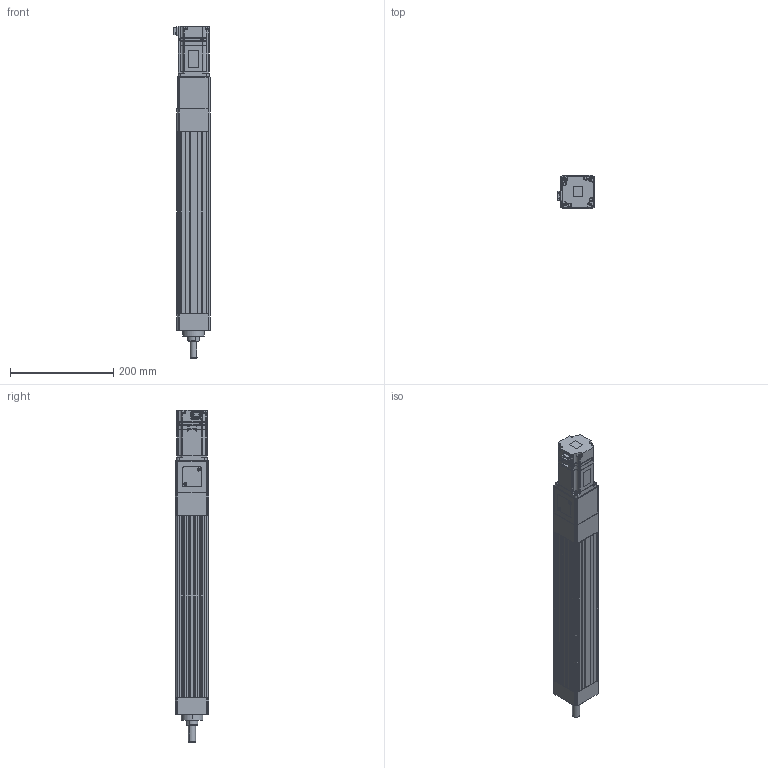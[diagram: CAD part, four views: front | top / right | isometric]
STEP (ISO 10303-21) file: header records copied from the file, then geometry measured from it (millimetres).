
FILE_DESCRIPTION (( 'STEP AP203' ), '1' );
FILE_NAME ('ANS065R-S250-05(10)(20)-W40-M.STEP', '2019-03-02T12:20:03', ( 'user' ), ( '' ), 'SwSTEP 2.0', 'SolidWorks 2013', '' );
FILE_SCHEMA (( 'CONFIG_CONTROL_DESIGN' ));
Length unit declared in the file: millimetre
Products named in the file (4): ANS065R S250 VER2; sgmjv_04a_a21; ANS065 ROD ST250-M; ANS065R-S250-05(10)(20)-W40-M
Assembly tree (3 placements, depth 2):
  ANS065R-S250-05(10)(20)-W40-M
    ANS065R S250 VER2
    sgmjv_04a_a21
    ANS065 ROD ST250-M
Bounding box: 71.3 x 65 x 644.6 mm (x, y, z)
Volume: 1571865 mm3; surface area: 348301.8 mm2
Topology: 3 solids, 7 shells, 1080 faces, 2853 edges, 1837 vertices
Faces by surface type: plane 636, cylinder 358, cone 86
Entity records: 33539 total; most frequent: CARTESIAN_POINT 5970, DIRECTION 5703, ORIENTED_EDGE 5658, EDGE_CURVE 2829, LINE 1999, VECTOR 1999, AXIS2_PLACEMENT_3D 1852, VERTEX_POINT 1837
